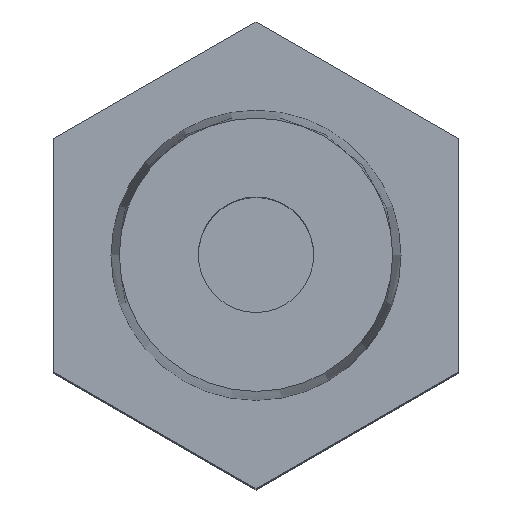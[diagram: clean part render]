
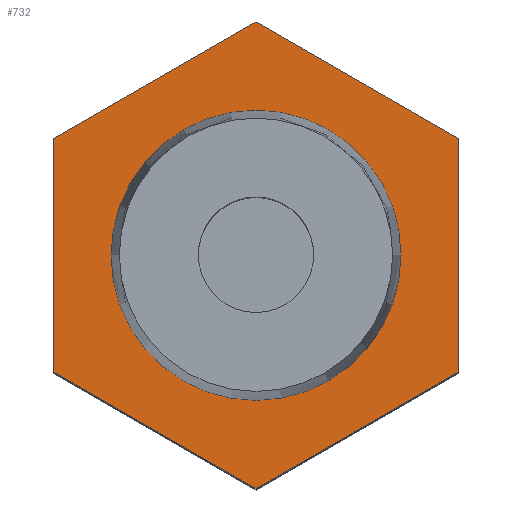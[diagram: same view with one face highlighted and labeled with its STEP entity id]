
A CAD part, top view. The second image highlights one B-rep face of the part: STEP entity #732.
In plain terms, the highlighted planar face has unit normal (0, 0, -1).
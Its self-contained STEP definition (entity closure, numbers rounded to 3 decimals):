
#15=FACE_BOUND('',#109,.T.);
#21=PLANE('',#846);
#78=FACE_OUTER_BOUND('',#108,.T.);
#108=EDGE_LOOP('',(#617,#618,#619,#620,#621,#622));
#109=EDGE_LOOP('',(#623));
#149=CIRCLE('',#847,5.025);
#179=LINE('',#1160,#271);
#180=LINE('',#1162,#272);
#181=LINE('',#1164,#273);
#182=LINE('',#1166,#274);
#183=LINE('',#1168,#275);
#184=LINE('',#1169,#276);
#271=VECTOR('',#938,8.083);
#272=VECTOR('',#939,8.083);
#273=VECTOR('',#940,8.083);
#274=VECTOR('',#941,8.083);
#275=VECTOR('',#942,8.083);
#276=VECTOR('',#943,8.083);
#373=VERTEX_POINT('',#1158);
#374=VERTEX_POINT('',#1159);
#375=VERTEX_POINT('',#1161);
#376=VERTEX_POINT('',#1163);
#377=VERTEX_POINT('',#1165);
#378=VERTEX_POINT('',#1167);
#379=VERTEX_POINT('',#1170);
#495=EDGE_CURVE('',#373,#374,#179,.T.);
#496=EDGE_CURVE('',#374,#375,#180,.T.);
#497=EDGE_CURVE('',#375,#376,#181,.T.);
#498=EDGE_CURVE('',#376,#377,#182,.T.);
#499=EDGE_CURVE('',#377,#378,#183,.T.);
#500=EDGE_CURVE('',#378,#373,#184,.T.);
#501=EDGE_CURVE('',#379,#379,#149,.T.);
#617=ORIENTED_EDGE('',*,*,#495,.T.);
#618=ORIENTED_EDGE('',*,*,#496,.T.);
#619=ORIENTED_EDGE('',*,*,#497,.T.);
#620=ORIENTED_EDGE('',*,*,#498,.T.);
#621=ORIENTED_EDGE('',*,*,#499,.T.);
#622=ORIENTED_EDGE('',*,*,#500,.T.);
#623=ORIENTED_EDGE('',*,*,#501,.T.);
#732=ADVANCED_FACE('',(#78,#15),#21,.T.);
#846=AXIS2_PLACEMENT_3D('',#1157,#936,#937);
#847=AXIS2_PLACEMENT_3D('',#1171,#944,#945);
#936=DIRECTION('center_axis',(0.,0.,-1.));
#937=DIRECTION('ref_axis',(-1.,0.,0.));
#938=DIRECTION('',(-0.866,-0.5,0.));
#939=DIRECTION('',(-0.866,0.5,0.));
#940=DIRECTION('',(0.,1.,0.));
#941=DIRECTION('',(0.866,0.5,0.));
#942=DIRECTION('',(0.866,-0.5,0.));
#943=DIRECTION('',(0.,-1.,0.));
#944=DIRECTION('center_axis',(0.,0.,1.));
#945=DIRECTION('ref_axis',(1.,0.,0.));
#1157=CARTESIAN_POINT('Origin',(0.,-8.18,18.));
#1158=CARTESIAN_POINT('',(7.,-4.041,18.));
#1159=CARTESIAN_POINT('',(0.,-8.083,18.));
#1160=CARTESIAN_POINT('',(7.,-4.041,18.));
#1161=CARTESIAN_POINT('',(-7.,-4.041,18.));
#1162=CARTESIAN_POINT('',(0.,-8.083,18.));
#1163=CARTESIAN_POINT('',(-7.,4.041,18.));
#1164=CARTESIAN_POINT('',(-7.,-4.041,18.));
#1165=CARTESIAN_POINT('',(0.,8.083,18.));
#1166=CARTESIAN_POINT('',(-7.,4.041,18.));
#1167=CARTESIAN_POINT('',(7.,4.041,18.));
#1168=CARTESIAN_POINT('',(0.,8.083,18.));
#1169=CARTESIAN_POINT('',(7.,4.041,18.));
#1170=CARTESIAN_POINT('',(5.025,0.,18.));
#1171=CARTESIAN_POINT('Origin',(0.,0.,18.));
